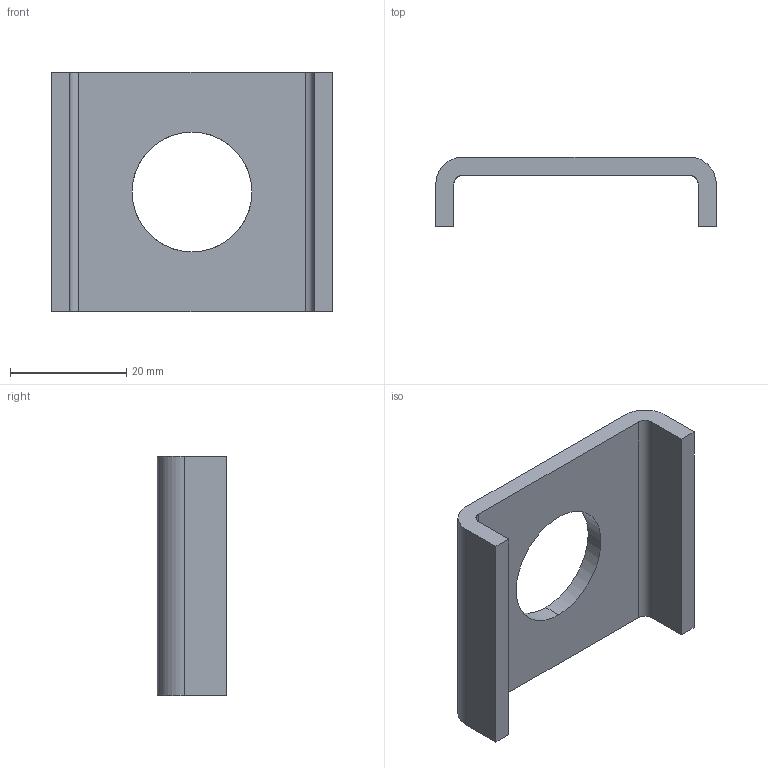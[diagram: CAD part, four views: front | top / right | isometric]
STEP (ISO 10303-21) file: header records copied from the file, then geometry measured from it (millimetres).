
FILE_DESCRIPTION(('TurboCAD Mac Pro'),'Build 980');
FILE_NAME('P2800-75.stp',' ',(''),(''),'ACIS Interop','IMSI','TurboCAD Mac Pro BY IMSI, INCORPORATED');
FILE_SCHEMA(('automotive_design'));
Length unit declared in the file: inch
Products named in the file (1): 1
Bounding box: 48.28 x 11.98 x 41.27 mm (x, y, z)
Volume: 7086.4 mm3; surface area: 5413 mm2
Topology: 1 solids, 1 shells, 18 faces, 48 edges, 32 vertices
Faces by surface type: plane 10, bspline 8
Entity records: 772 total; most frequent: CARTESIAN_POINT 203, ORIENTED_EDGE 96, DIRECTION 54, EDGE_CURVE 48, VERTEX_POINT 32, LINE 32, VECTOR 32, EDGE_LOOP 20
